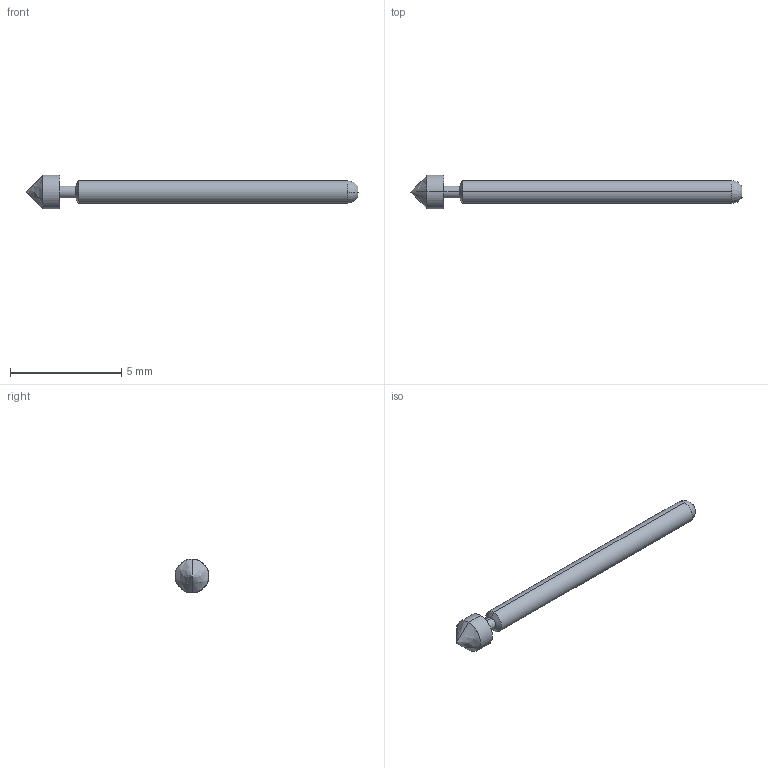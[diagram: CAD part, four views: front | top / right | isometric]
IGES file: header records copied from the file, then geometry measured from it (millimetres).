
Start section: SolidWorks IGES file using analytic representation for surfaces
Global section: file name: Z:\probe solid model mockups\Solidworks models\IGES Files\HPA-1\HPA-1E RECD.IGS; native system: SolidWorks 2006 by SolidWorks Corporation; preprocessor: SolidWorks 2006 by SolidWorks Corporation; author: tsakatani; date: 071220.112121; units: inch
Bounding box: 14.94 x 1.52 x 1.52 mm (x, y, z)
Surface area: 50 mm2 (no closed solid volume)
Topology: 0 solids, 0 shells, 14 faces, 100 edges, 98 vertices
Faces by surface type: revolution 12, bspline 2
